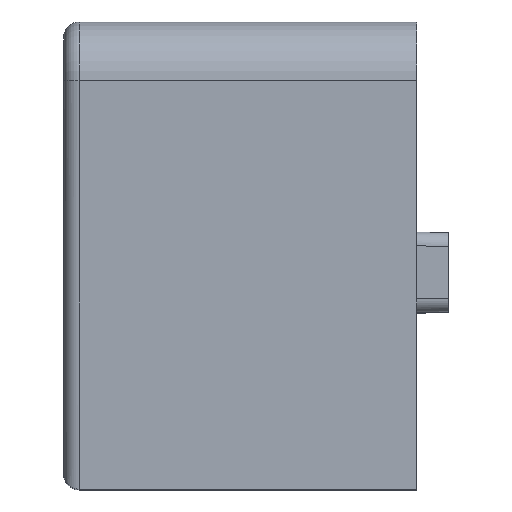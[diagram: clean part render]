
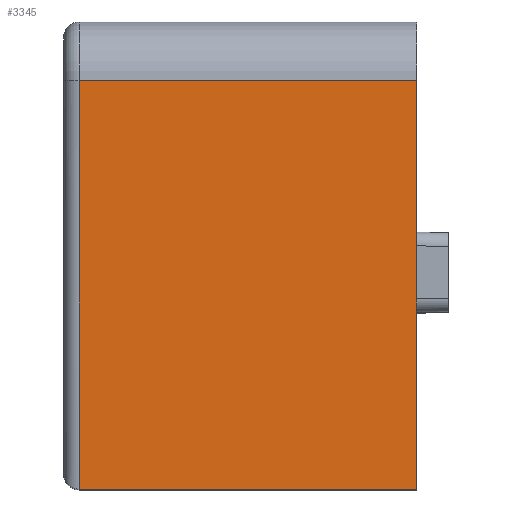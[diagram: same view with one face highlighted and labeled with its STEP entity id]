
A CAD part, top view. The second image highlights one B-rep face of the part: STEP entity #3345.
In plain terms, the highlighted planar face has unit normal (0, 0, 1).
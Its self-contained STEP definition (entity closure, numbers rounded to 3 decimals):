
#10 = FACE_OUTER_BOUND ( 'NONE', #3889, .T. ) ;
#120 = VERTEX_POINT ( 'NONE', #3791 ) ;
#281 = DIRECTION ( 'NONE',  ( 0., -1., 0. ) ) ;
#322 = CARTESIAN_POINT ( 'NONE',  ( 9., -5.95, 6.05 ) ) ;
#333 = CARTESIAN_POINT ( 'NONE',  ( 9., -5.95, 6.05 ) ) ;
#562 = LINE ( 'NONE', #322, #1321 ) ;
#635 = CARTESIAN_POINT ( 'NONE',  ( 0.4, 4.45, 6.05 ) ) ;
#788 = DIRECTION ( 'NONE',  ( -1., 0., 0. ) ) ;
#836 = ORIENTED_EDGE ( 'NONE', *, *, #1521, .T. ) ;
#875 = LINE ( 'NONE', #943, #1318 ) ;
#943 = CARTESIAN_POINT ( 'NONE',  ( 0.4, -5.95, 6.05 ) ) ;
#1113 = VERTEX_POINT ( 'NONE', #2404 ) ;
#1151 = AXIS2_PLACEMENT_3D ( 'NONE', #2753, #3377, #2175 ) ;
#1259 = PLANE ( 'NONE',  #1151 ) ;
#1318 = VECTOR ( 'NONE', #2116, 1000. ) ;
#1321 = VECTOR ( 'NONE', #281, 1000. ) ;
#1366 = EDGE_CURVE ( 'NONE', #2602, #1113, #875, .T. ) ;
#1439 = VECTOR ( 'NONE', #3592, 1000. ) ;
#1521 = EDGE_CURVE ( 'NONE', #120, #2602, #3635, .T. ) ;
#1986 = EDGE_CURVE ( 'NONE', #2684, #1113, #2605, .T. ) ;
#2092 = CARTESIAN_POINT ( 'NONE',  ( 9., 4.45, 6.05 ) ) ;
#2116 = DIRECTION ( 'NONE',  ( 0., -1., 0. ) ) ;
#2175 = DIRECTION ( 'NONE',  ( -1., 0., 0. ) ) ;
#2293 = VECTOR ( 'NONE', #788, 1000. ) ;
#2343 = ORIENTED_EDGE ( 'NONE', *, *, #3370, .F. ) ;
#2404 = CARTESIAN_POINT ( 'NONE',  ( 0.4, -5.95, 6.05 ) ) ;
#2567 = CARTESIAN_POINT ( 'NONE',  ( 9., -5.95, 6.05 ) ) ;
#2602 = VERTEX_POINT ( 'NONE', #635 ) ;
#2605 = LINE ( 'NONE', #2567, #1439 ) ;
#2684 = VERTEX_POINT ( 'NONE', #333 ) ;
#2753 = CARTESIAN_POINT ( 'NONE',  ( 9., -5.95, 6.05 ) ) ;
#3345 = ADVANCED_FACE ( 'NONE', ( #10 ), #1259, .F. ) ;
#3370 = EDGE_CURVE ( 'NONE', #120, #2684, #562, .T. ) ;
#3377 = DIRECTION ( 'NONE',  ( 0., 0., -1. ) ) ;
#3508 = ORIENTED_EDGE ( 'NONE', *, *, #1366, .T. ) ;
#3592 = DIRECTION ( 'NONE',  ( -1., 0., 0. ) ) ;
#3635 = LINE ( 'NONE', #2092, #2293 ) ;
#3791 = CARTESIAN_POINT ( 'NONE',  ( 9., 4.45, 6.05 ) ) ;
#3889 = EDGE_LOOP ( 'NONE', ( #836, #3508, #3943, #2343 ) ) ;
#3943 = ORIENTED_EDGE ( 'NONE', *, *, #1986, .F. ) ;
